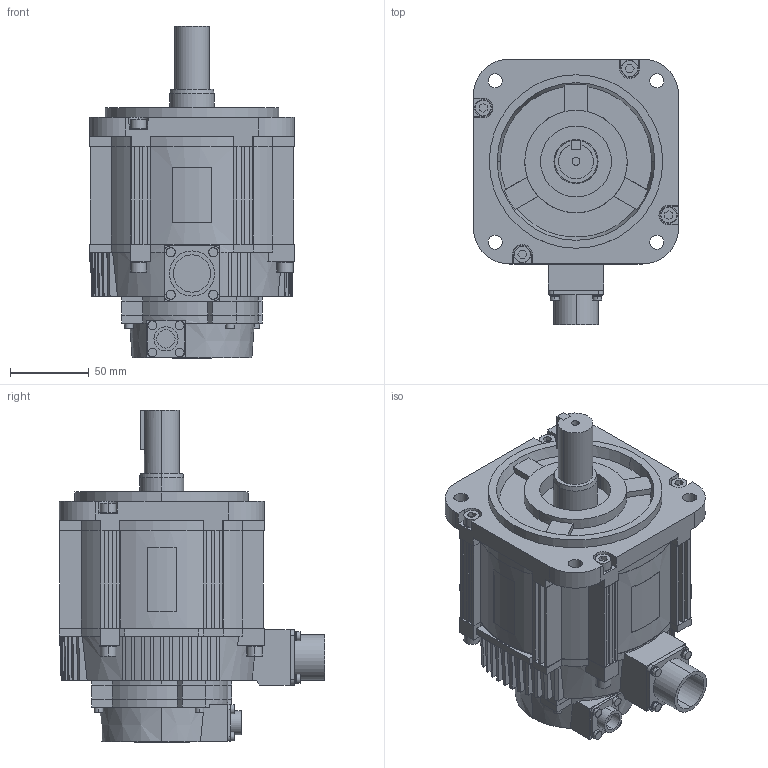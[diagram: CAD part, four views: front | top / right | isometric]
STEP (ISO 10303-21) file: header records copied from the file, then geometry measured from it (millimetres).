
FILE_DESCRIPTION (( 'STEP AP203' ), '1' );
FILE_NAME ('sgmgv_13__a61.STEP', '2009-02-06T06:15:34', ( 'T' ), ( 'T' ), 'SwSTEP 2.0', 'SolidWorks 2006052', '' );
FILE_SCHEMA (( 'CONFIG_CONTROL_DESIGN' ));
Length unit declared in the file: millimetre
Products named in the file (3): sgmgv_13__a61_base; sgmgv_13__a61_key; sgmgv_13__a61
Assembly tree (2 placements, depth 2):
  sgmgv_13__a61
    sgmgv_13__a61_key
    sgmgv_13__a61_base
Bounding box: 130 x 168.49 x 210.6 mm (x, y, z)
Volume: 1830850.9 mm3; surface area: 145342.2 mm2
Topology: 2 solids, 2 shells, 814 faces, 2140 edges, 1398 vertices
Faces by surface type: plane 531, cylinder 195, cone 88
Entity records: 25864 total; most frequent: CARTESIAN_POINT 5156, ORIENTED_EDGE 4280, DIRECTION 4249, EDGE_CURVE 2140, AXIS2_PLACEMENT_3D 1453, VERTEX_POINT 1398, LINE 1343, VECTOR 1343
